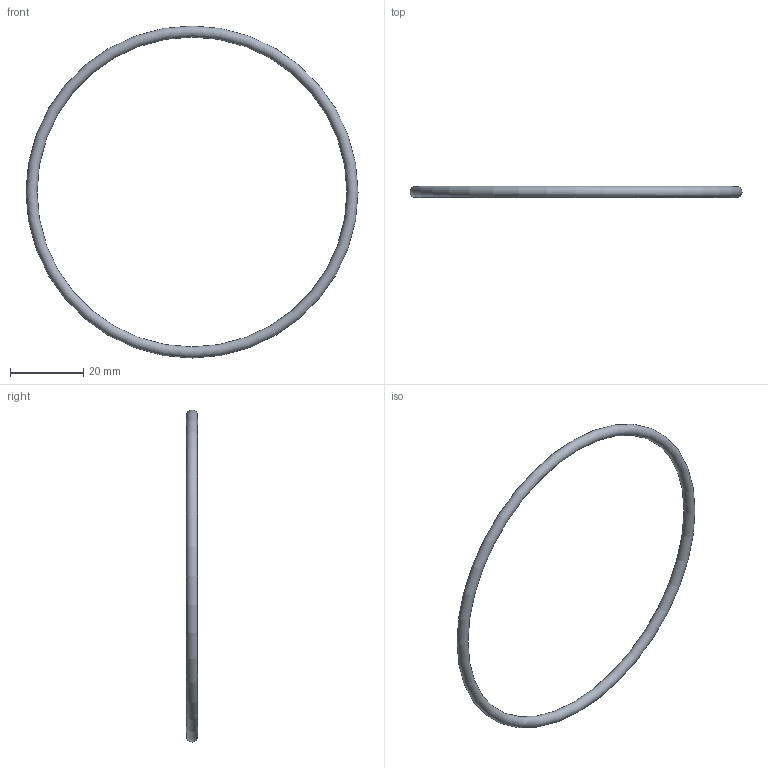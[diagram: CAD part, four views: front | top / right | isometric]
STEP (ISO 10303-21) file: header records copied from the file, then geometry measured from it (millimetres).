
FILE_DESCRIPTION( ( 'STEP AP203' ), '1' );
FILE_NAME( 'C:/Temp/Ganter_Step_05_03_2020/data/3_5/or638/O-Ring OR638-84.50-3.00-70.stp', '2020-03-12T13:44:32', ( 'License CC BY-ND 4.0' ), ( 'CADENAS' ), ' ', 'PARTsolutions', ' ' );
FILE_SCHEMA( ( 'CONFIG_CONTROL_DESIGN' ) );
Length unit declared in the file: millimetre
Products named in the file (1): _O-Ring OR638-84.50-3.00-70
Bounding box: 90.5 x 3 x 90.5 mm (x, y, z)
Volume: 1943.1 mm3; surface area: 2590.8 mm2
Topology: 1 solids, 1 shells, 1 faces, 2 edges, 1 vertices
Faces by surface type: torus 1
Entity records: 62 total; most frequent: CC_DESIGN_PERSON_AND_ORGANIZATION_ASSIGNMENT 5, PERSON_AND_ORGANIZATION_ROLE 4, DIRECTION 4, CARTESIAN_POINT 3, DATE_TIME_ROLE 2, CC_DESIGN_DATE_AND_TIME_ASSIGNMENT 2, AXIS2_PLACEMENT_3D 2, DIMENSIONAL_EXPONENTS 2
